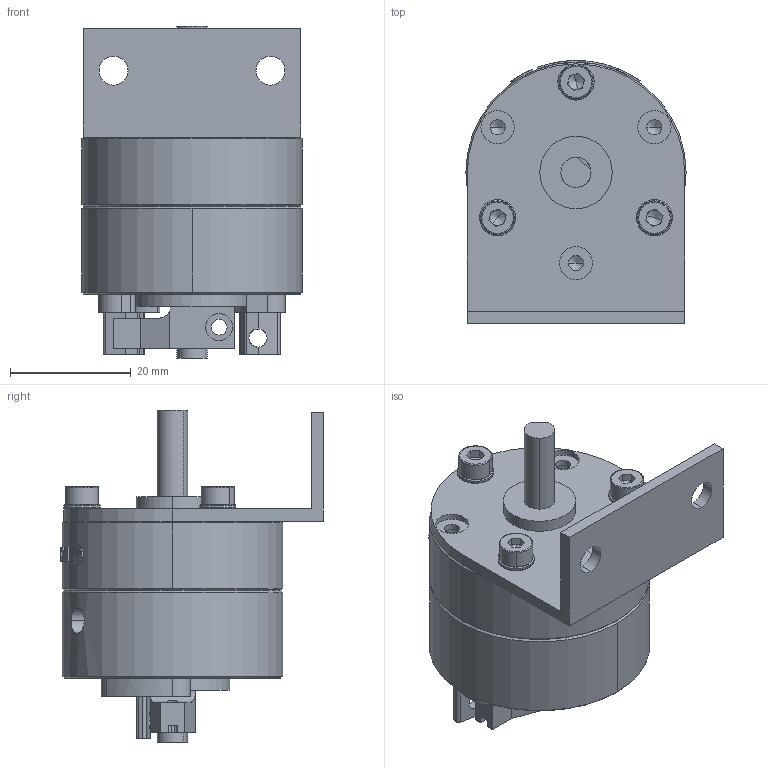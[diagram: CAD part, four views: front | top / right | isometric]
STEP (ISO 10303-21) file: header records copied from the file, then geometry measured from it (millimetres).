
FILE_DESCRIPTION (( 'STEP AP203' ), '1' );
FILE_NAME ('PROA3S-#-#-L1.STEP', '2016-02-04T06:58:50', ( 'Sam Lin' ), ( '' ), 'SwSTEP 2.0', 'SolidWorks 2013', '' );
FILE_SCHEMA (( 'CONFIG_CONTROL_DESIGN' ));
Length unit declared in the file: metre
Products named in the file (11): PROA3S-#-# (6); PROA3S-#-#-L1 (7); mark-PROA3S-2; ISO 4762 M3 x 10; PROA3S-#-# (4); M3墊片; PROA3S-#-# (5); PROA3S-#-#-L1; PROA3S-#-# (1); PROA3S-#-# (2); PROA3S-#-# (3)
Assembly tree (14 placements, depth 2):
  PROA3S-#-#-L1
    PROA3S-#-# (4)
    PROA3S-#-# (5)
    PROA3S-#-# (1)
    PROA3S-#-# (2)
    PROA3S-#-# (3)
    PROA3S-#-# (6)
    PROA3S-#-#-L1 (7)
    mark-PROA3S-2
    ISO 4762 M3 x 10  x3
    M3墊片  x3
Bounding box: 36.5 x 43.55 x 55 mm (x, y, z)
Volume: 32892.9 mm3; surface area: 16542.9 mm2
Topology: 20 solids, 20 shells, 488 faces, 1158 edges, 742 vertices
Faces by surface type: cylinder 205, plane 193, bspline 59, cone 31
Entity records: 16939 total; most frequent: CARTESIAN_POINT 5889, DIRECTION 2087, ORIENTED_EDGE 1972, EDGE_CURVE 986, AXIS2_PLACEMENT_3D 816, VERTEX_POINT 648, EDGE_LOOP 508, LINE 455
